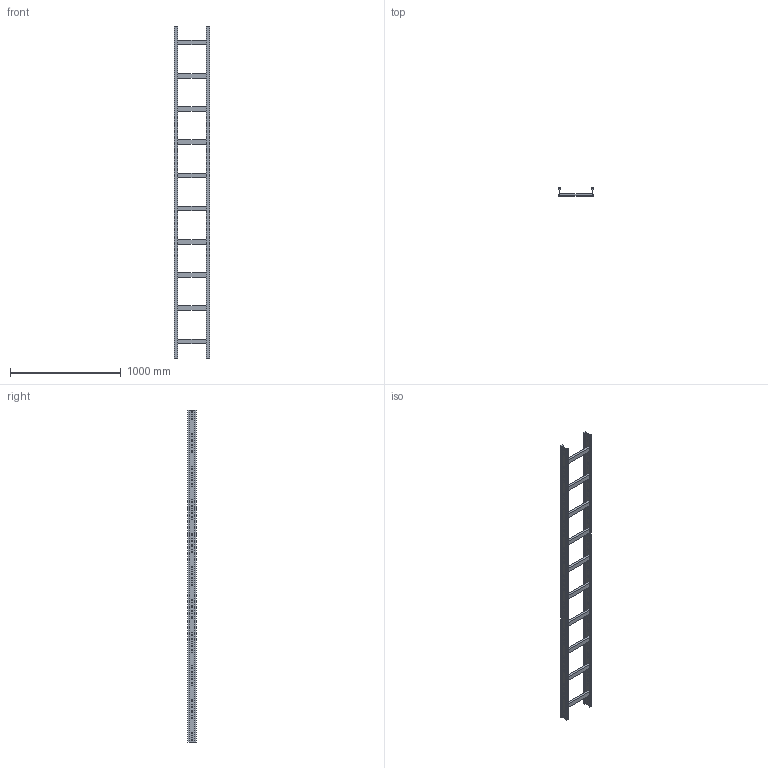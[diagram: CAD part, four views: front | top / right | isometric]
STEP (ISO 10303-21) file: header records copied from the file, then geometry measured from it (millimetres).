
FILE_DESCRIPTION (( 'STEP AP214' ), '1' );
FILE_NAME ('01S3C300.step', '2025-02-21T16:20:55', ( '' ), ( '' ), 'SwSTEP 2.0', 'SolidWorks 2023', '' );
FILE_SCHEMA (( 'AUTOMOTIVE_DESIGN' ));
Length unit declared in the file: millimetre
Products named in the file (3): TRAVERSINO_300; 01S3C300; LONGH.H75
Assembly tree (12 placements, depth 2):
  01S3C300
    LONGH.H75  x2
    TRAVERSINO_300  x10
Bounding box: 318 x 75 x 3000 mm (x, y, z)
Volume: 5335200 mm3; surface area: 1831701 mm2
Topology: 12 solids, 12 shells, 408 faces, 1152 edges, 768 vertices
Faces by surface type: plane 408
Entity records: 6180 total; most frequent: CARTESIAN_POINT 1075, ORIENTED_EDGE 1056, DIRECTION 918, VECTOR 528, EDGE_CURVE 528, LINE 528, VERTEX_POINT 352, EDGE_LOOP 260
